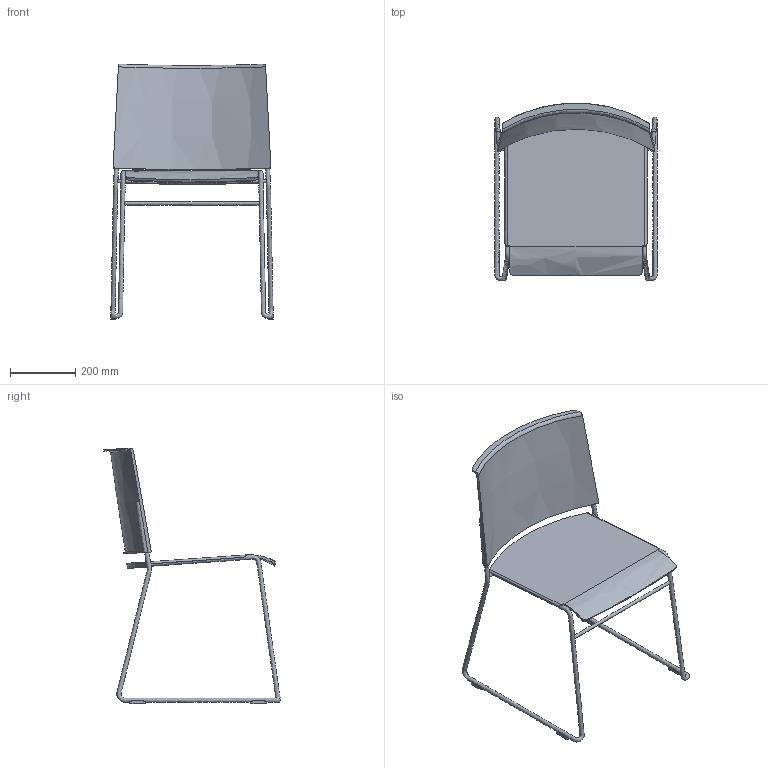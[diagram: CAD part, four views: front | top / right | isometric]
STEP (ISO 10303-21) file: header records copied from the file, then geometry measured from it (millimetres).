
FILE_DESCRIPTION(/* description */ (''),/* implementation_level */ '2;1');
FILE_NAME(/* name */ 'Ｘ50',/* time_stamp */ '2020-10-12T15:00:43+09:00',/* author */ (''),/* organization */ (''),/* preprocessor_version */ 'ST-DEVELOPER v16.5',/* originating_system */ '',/* authorisation */ '');
FILE_SCHEMA (('AUTOMOTIVE_DESIGN'));
Length unit declared in the file: millimetre
Products named in the file (1): Document
Bounding box: 500.03 x 543.15 x 785.91 mm (x, y, z)
Volume: 3320812.1 mm3; surface area: 930502.8 mm2
Topology: 7 solids, 7 shells, 124 faces, 288 edges, 182 vertices
Faces by surface type: bspline 82, plane 42
Entity records: 11607 total; most frequent: CARTESIAN_POINT 9803, ORIENTED_EDGE 576, EDGE_CURVE 288, VERTEX_POINT 182, EDGE_LOOP 134, B_SPLINE_CURVE_WITH_KNOTS 128, ADVANCED_FACE 124, FACE_OUTER_BOUND 124
